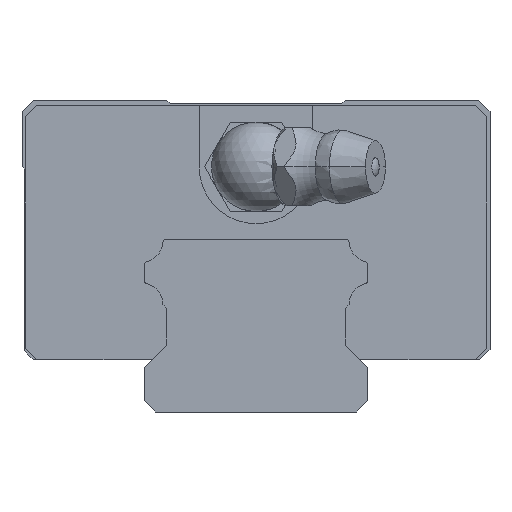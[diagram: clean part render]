
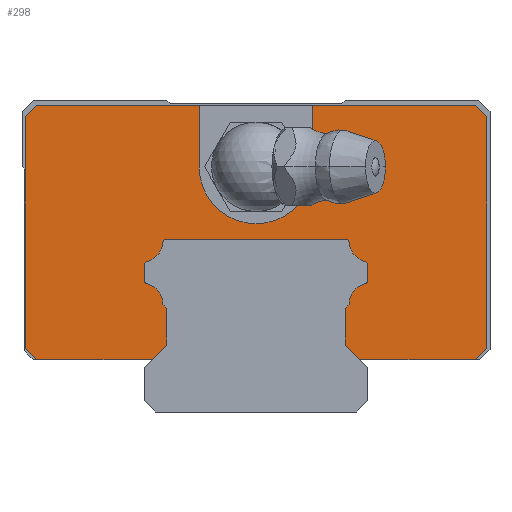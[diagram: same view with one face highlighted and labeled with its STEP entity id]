
A CAD part, front view. The second image highlights one B-rep face of the part: STEP entity #298.
In plain terms, the highlighted planar face has unit normal (0, -1, 0).
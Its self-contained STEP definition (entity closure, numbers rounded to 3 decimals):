
#298=ADVANCED_FACE('',(#639),#640,.T.);
#639=FACE_OUTER_BOUND('',#1142,.T.);
#640=PLANE('',#1143);
#1142=EDGE_LOOP('',(#2280,#2281,#2282,#2283,#2284,#2285,#2286,#2287,#2288,#2289,#2290,#2291,#2292,#2293,#2294,#2295,#2296,#2297,#2298,#2299,#2300,#2301,#2302,#2303,#2304,#2305,#2306,#2307,#2308,#2309,#2310,#2311,#2312));
#1143=AXIS2_PLACEMENT_3D('',#2313,#2314,#2315);
#2280=ORIENTED_EDGE('',*,*,#3279,.F.);
#2281=ORIENTED_EDGE('',*,*,#3240,.F.);
#2282=ORIENTED_EDGE('',*,*,#3334,.F.);
#2283=ORIENTED_EDGE('',*,*,#3335,.F.);
#2284=ORIENTED_EDGE('',*,*,#3309,.F.);
#2285=ORIENTED_EDGE('',*,*,#3181,.F.);
#2286=ORIENTED_EDGE('',*,*,#3237,.F.);
#2287=ORIENTED_EDGE('',*,*,#3321,.F.);
#2288=ORIENTED_EDGE('',*,*,#3324,.F.);
#2289=ORIENTED_EDGE('',*,*,#3336,.F.);
#2290=ORIENTED_EDGE('',*,*,#3276,.F.);
#2291=ORIENTED_EDGE('',*,*,#3288,.F.);
#2292=ORIENTED_EDGE('',*,*,#3337,.F.);
#2293=ORIENTED_EDGE('',*,*,#3312,.F.);
#2294=ORIENTED_EDGE('',*,*,#3224,.F.);
#2295=ORIENTED_EDGE('',*,*,#3338,.F.);
#2296=ORIENTED_EDGE('',*,*,#3185,.F.);
#2297=ORIENTED_EDGE('',*,*,#3339,.F.);
#2298=ORIENTED_EDGE('',*,*,#3235,.F.);
#2299=ORIENTED_EDGE('',*,*,#3248,.F.);
#2300=ORIENTED_EDGE('',*,*,#3328,.F.);
#2301=ORIENTED_EDGE('',*,*,#3340,.F.);
#2302=ORIENTED_EDGE('',*,*,#3304,.F.);
#2303=ORIENTED_EDGE('',*,*,#3168,.T.);
#2304=ORIENTED_EDGE('',*,*,#3341,.T.);
#2305=ORIENTED_EDGE('',*,*,#3075,.T.);
#2306=ORIENTED_EDGE('',*,*,#3291,.T.);
#2307=ORIENTED_EDGE('',*,*,#3303,.F.);
#2308=ORIENTED_EDGE('',*,*,#3342,.F.);
#2309=ORIENTED_EDGE('',*,*,#3343,.F.);
#2310=ORIENTED_EDGE('',*,*,#3298,.F.);
#2311=ORIENTED_EDGE('',*,*,#3344,.F.);
#2312=ORIENTED_EDGE('',*,*,#3345,.F.);
#2313=CARTESIAN_POINT('',(0.0,-10.1,22.0));
#2314=DIRECTION('',(0.0,-1.0,0.0));
#2315=DIRECTION('',(0.0,0.0,-1.0));
#3075=EDGE_CURVE('',#3664,#3668,#3670,.T.);
#3168=EDGE_CURVE('',#3840,#3838,#3841,.T.);
#3181=EDGE_CURVE('',#3860,#3862,#3863,.T.);
#3185=EDGE_CURVE('',#3868,#3870,#3871,.T.);
#3224=EDGE_CURVE('',#3936,#3938,#3939,.T.);
#3235=EDGE_CURVE('',#3955,#3945,#3957,.T.);
#3237=EDGE_CURVE('',#3959,#3860,#3961,.T.);
#3240=EDGE_CURVE('',#3964,#3966,#3967,.T.);
#3248=EDGE_CURVE('',#3976,#3955,#3978,.T.);
#3276=EDGE_CURVE('',#4025,#4027,#4028,.T.);
#3279=EDGE_CURVE('',#3966,#4032,#4033,.T.);
#3288=EDGE_CURVE('',#4044,#4025,#4046,.T.);
#3291=EDGE_CURVE('',#3668,#4048,#4050,.T.);
#3298=EDGE_CURVE('',#4057,#4055,#4059,.T.);
#3303=EDGE_CURVE('',#4065,#4048,#4067,.T.);
#3304=EDGE_CURVE('',#3840,#4063,#4068,.T.);
#3309=EDGE_CURVE('',#3862,#4073,#4074,.T.);
#3312=EDGE_CURVE('',#3938,#4078,#4079,.T.);
#3321=EDGE_CURVE('',#4091,#3959,#4093,.T.);
#3324=EDGE_CURVE('',#4096,#4091,#4098,.T.);
#3328=EDGE_CURVE('',#4101,#3976,#4103,.T.);
#3334=EDGE_CURVE('',#4110,#3964,#4111,.T.);
#3335=EDGE_CURVE('',#4073,#4110,#4112,.T.);
#3336=EDGE_CURVE('',#4027,#4096,#4113,.T.);
#3337=EDGE_CURVE('',#4078,#4044,#4114,.T.);
#3338=EDGE_CURVE('',#3870,#3936,#4115,.T.);
#3339=EDGE_CURVE('',#3945,#3868,#4116,.T.);
#3340=EDGE_CURVE('',#4063,#4101,#4117,.T.);
#3341=EDGE_CURVE('',#3838,#3664,#4118,.T.);
#3342=EDGE_CURVE('',#4119,#4065,#4120,.T.);
#3343=EDGE_CURVE('',#4055,#4119,#4121,.T.);
#3344=EDGE_CURVE('',#4122,#4057,#4123,.T.);
#3345=EDGE_CURVE('',#4032,#4122,#4124,.T.);
#3664=VERTEX_POINT('',#4730);
#3668=VERTEX_POINT('',#4735);
#3670=CIRCLE('',#4738,5.1);
#3838=VERTEX_POINT('',#4959);
#3840=VERTEX_POINT('',#4962);
#3841=LINE('',#4963,#4964);
#3860=VERTEX_POINT('',#4990);
#3862=VERTEX_POINT('',#4993);
#3863=CIRCLE('',#4994,0.3);
#3868=VERTEX_POINT('',#5000);
#3870=VERTEX_POINT('',#5003);
#3871=LINE('',#5004,#5005);
#3936=VERTEX_POINT('',#5099);
#3938=VERTEX_POINT('',#5102);
#3939=CIRCLE('',#5103,1.9);
#3945=VERTEX_POINT('',#5110);
#3955=VERTEX_POINT('',#5125);
#3957=LINE('',#5128,#5129);
#3959=VERTEX_POINT('',#5131);
#3961=CIRCLE('',#5134,1.9);
#3964=VERTEX_POINT('',#5137);
#3966=VERTEX_POINT('',#5140);
#3967=LINE('',#5141,#5142);
#3976=VERTEX_POINT('',#5153);
#3978=LINE('',#5156,#5157);
#4025=VERTEX_POINT('',#5230);
#4027=VERTEX_POINT('',#5233);
#4028=CIRCLE('',#5234,1.9);
#4032=VERTEX_POINT('',#5239);
#4033=LINE('',#5240,#5241);
#4044=VERTEX_POINT('',#5256);
#4046=CIRCLE('',#5259,0.3);
#4048=VERTEX_POINT('',#5261);
#4050=LINE('',#5264,#5265);
#4055=VERTEX_POINT('',#5273);
#4057=VERTEX_POINT('',#5276);
#4059=LINE('',#5279,#5280);
#4063=VERTEX_POINT('',#5286);
#4065=VERTEX_POINT('',#5289);
#4067=LINE('',#5292,#5293);
#4068=LINE('',#5294,#5295);
#4073=VERTEX_POINT('',#5302);
#4074=LINE('',#5303,#5304);
#4078=VERTEX_POINT('',#5310);
#4079=CIRCLE('',#5311,0.3);
#4091=VERTEX_POINT('',#5324);
#4093=CIRCLE('',#5327,0.3);
#4096=VERTEX_POINT('',#5330);
#4098=LINE('',#5333,#5334);
#4101=VERTEX_POINT('',#5339);
#4103=LINE('',#5342,#5343);
#4110=VERTEX_POINT('',#5353);
#4111=CIRCLE('',#5354,1.9);
#4112=CIRCLE('',#5355,0.3);
#4113=CIRCLE('',#5356,0.3);
#4114=LINE('',#5357,#5358);
#4115=LINE('',#5359,#5360);
#4116=LINE('',#5361,#5362);
#4117=LINE('',#5363,#5364);
#4118=CIRCLE('',#5365,5.1);
#4119=VERTEX_POINT('',#5366);
#4120=LINE('',#5367,#5368);
#4121=LINE('',#5369,#5370);
#4122=VERTEX_POINT('',#5371);
#4123=LINE('',#5372,#5373);
#4124=LINE('',#5374,#5375);
#4730=CARTESIAN_POINT('',(0.,-10.1,16.9));
#4735=CARTESIAN_POINT('',(-5.1,-10.1,22.0));
#4738=AXIS2_PLACEMENT_3D('',#5848,#5849,#5850);
#4959=CARTESIAN_POINT('',(5.1,-10.1,22.0));
#4962=CARTESIAN_POINT('',(5.1,-10.1,27.5));
#4963=CARTESIAN_POINT('',(5.1,-10.1,27.5));
#4964=VECTOR('',#6019,1000.0);
#4990=CARTESIAN_POINT('',(-9.775,-10.1,13.51));
#4993=CARTESIAN_POINT('',(-10.0,-10.1,13.219));
#4994=AXIS2_PLACEMENT_3D('',#6040,#6041,#6042);
#5000=CARTESIAN_POINT('',(8.0,-10.1,6.));
#5003=CARTESIAN_POINT('',(8.0,-10.1,9.3));
#5004=CARTESIAN_POINT('',(8.0,-10.1,22.0));
#5005=VECTOR('',#6048,1000.0);
#5099=CARTESIAN_POINT('',(8.349,-10.1,9.649));
#5102=CARTESIAN_POINT('',(9.775,-10.1,11.49));
#5103=AXIS2_PLACEMENT_3D('',#6103,#6104,#6105);
#5110=CARTESIAN_POINT('',(9.3,-10.1,4.7));
#5125=CARTESIAN_POINT('',(19.7,-10.1,4.7));
#5128=CARTESIAN_POINT('',(19.7,-10.1,4.7));
#5129=VECTOR('',#6122,1000.0);
#5131=CARTESIAN_POINT('',(-8.354,-10.1,15.22));
#5134=AXIS2_PLACEMENT_3D('',#6124,#6125,#6126);
#5137=CARTESIAN_POINT('',(-8.349,-10.1,9.649));
#5140=CARTESIAN_POINT('',(-8.0,-10.1,9.3));
#5141=CARTESIAN_POINT('',(-10.35,-10.1,11.65));
#5142=VECTOR('',#6131,1000.0);
#5153=CARTESIAN_POINT('',(20.7,-10.1,5.7));
#5156=CARTESIAN_POINT('',(20.7,-10.1,5.7));
#5157=VECTOR('',#6147,1000.0);
#5230=CARTESIAN_POINT('',(9.775,-10.1,13.51));
#5233=CARTESIAN_POINT('',(8.354,-10.1,15.22));
#5234=AXIS2_PLACEMENT_3D('',#6175,#6176,#6177);
#5239=CARTESIAN_POINT('',(-8.0,-10.1,6.));
#5240=CARTESIAN_POINT('',(-8.0,-10.1,22.0));
#5241=VECTOR('',#6182,1000.0);
#5256=CARTESIAN_POINT('',(10.0,-10.1,13.219));
#5259=AXIS2_PLACEMENT_3D('',#6197,#6198,#6199);
#5261=CARTESIAN_POINT('',(-5.1,-10.1,27.5));
#5264=CARTESIAN_POINT('',(-5.1,-10.1,22.0));
#5265=VECTOR('',#6204,1000.0);
#5273=CARTESIAN_POINT('',(-20.7,-10.1,5.7));
#5276=CARTESIAN_POINT('',(-19.7,-10.1,4.7));
#5279=CARTESIAN_POINT('',(-19.7,-10.1,4.7));
#5280=VECTOR('',#6213,1000.0);
#5286=CARTESIAN_POINT('',(19.7,-10.1,27.5));
#5289=CARTESIAN_POINT('',(-19.7,-10.1,27.5));
#5292=CARTESIAN_POINT('',(-19.7,-10.1,27.5));
#5293=VECTOR('',#6218,1000.0);
#5294=CARTESIAN_POINT('',(-19.7,-10.1,27.5));
#5295=VECTOR('',#6219,1000.0);
#5302=CARTESIAN_POINT('',(-10.0,-10.1,11.781));
#5303=CARTESIAN_POINT('',(-10.0,-10.1,22.0));
#5304=VECTOR('',#6228,1000.0);
#5310=CARTESIAN_POINT('',(10.0,-10.1,11.781));
#5311=AXIS2_PLACEMENT_3D('',#6231,#6232,#6233);
#5324=CARTESIAN_POINT('',(-8.055,-10.1,15.5));
#5327=AXIS2_PLACEMENT_3D('',#6254,#6255,#6256);
#5330=CARTESIAN_POINT('',(8.055,-10.1,15.5));
#5333=CARTESIAN_POINT('',(0.0,-10.1,15.5));
#5334=VECTOR('',#6261,1000.0);
#5339=CARTESIAN_POINT('',(20.7,-10.1,26.5));
#5342=CARTESIAN_POINT('',(20.7,-10.1,26.5));
#5343=VECTOR('',#6265,1000.0);
#5353=CARTESIAN_POINT('',(-9.775,-10.1,11.49));
#5354=AXIS2_PLACEMENT_3D('',#6275,#6276,#6277);
#5355=AXIS2_PLACEMENT_3D('',#6278,#6279,#6280);
#5356=AXIS2_PLACEMENT_3D('',#6281,#6282,#6283);
#5357=CARTESIAN_POINT('',(10.0,-10.1,22.0));
#5358=VECTOR('',#6284,1000.0);
#5359=CARTESIAN_POINT('',(10.35,-10.1,11.65));
#5360=VECTOR('',#6285,1000.0);
#5361=CARTESIAN_POINT('',(-4.,-10.1,18.));
#5362=VECTOR('',#6286,1000.0);
#5363=CARTESIAN_POINT('',(19.7,-10.1,27.5));
#5364=VECTOR('',#6287,1000.0);
#5365=AXIS2_PLACEMENT_3D('',#6288,#6289,#6290);
#5366=CARTESIAN_POINT('',(-20.7,-10.1,26.5));
#5367=CARTESIAN_POINT('',(-20.7,-10.1,26.5));
#5368=VECTOR('',#6291,1000.0);
#5369=CARTESIAN_POINT('',(-20.7,-10.1,5.7));
#5370=VECTOR('',#6292,1000.0);
#5371=CARTESIAN_POINT('',(-9.3,-10.1,4.7));
#5372=CARTESIAN_POINT('',(19.7,-10.1,4.7));
#5373=VECTOR('',#6293,1000.0);
#5374=CARTESIAN_POINT('',(4.,-10.1,18.));
#5375=VECTOR('',#6294,1000.0);
#5848=CARTESIAN_POINT('',(0.0,-10.1,22.0));
#5849=DIRECTION('',(0.0,1.0,0.0));
#5850=DIRECTION('',(-1.0,0.0,0.0));
#6019=DIRECTION('',(0.0,0.0,-1.0));
#6040=CARTESIAN_POINT('',(-9.7,-10.1,13.219));
#6041=DIRECTION('',(0.0,-1.0,0.0));
#6042=DIRECTION('',(0.0,0.0,-1.0));
#6048=DIRECTION('',(0.0,0.0,1.0));
#6103=CARTESIAN_POINT('',(10.249,-10.1,9.651));
#6104=DIRECTION('',(0.0,1.0,0.0));
#6105=DIRECTION('',(0.0,0.0,-1.0));
#6122=DIRECTION('',(-1.0,0.0,0.0));
#6124=CARTESIAN_POINT('',(-10.249,-10.1,15.349));
#6125=DIRECTION('',(0.0,1.0,0.0));
#6126=DIRECTION('',(0.0,0.0,-1.0));
#6131=DIRECTION('',(0.707,0.0,-0.707));
#6147=DIRECTION('',(-0.707,0.0,-0.707));
#6175=CARTESIAN_POINT('',(10.249,-10.1,15.349));
#6176=DIRECTION('',(0.0,1.0,0.0));
#6177=DIRECTION('',(0.0,0.0,-1.0));
#6182=DIRECTION('',(0.0,0.0,-1.0));
#6197=CARTESIAN_POINT('',(9.7,-10.1,13.219));
#6198=DIRECTION('',(0.0,-1.0,0.0));
#6199=DIRECTION('',(0.0,0.0,-1.0));
#6204=DIRECTION('',(0.0,0.0,1.0));
#6213=DIRECTION('',(-0.707,0.0,0.707));
#6218=DIRECTION('',(1.0,0.0,0.0));
#6219=DIRECTION('',(1.0,0.0,0.0));
#6228=DIRECTION('',(0.0,0.0,-1.0));
#6231=CARTESIAN_POINT('',(9.7,-10.1,11.781));
#6232=DIRECTION('',(0.0,-1.0,0.0));
#6233=DIRECTION('',(0.0,0.0,-1.0));
#6254=CARTESIAN_POINT('',(-8.055,-10.1,15.2));
#6255=DIRECTION('',(0.0,-1.0,0.0));
#6256=DIRECTION('',(0.0,0.0,-1.0));
#6261=DIRECTION('',(-1.0,0.0,0.0));
#6265=DIRECTION('',(0.0,0.0,-1.0));
#6275=CARTESIAN_POINT('',(-10.249,-10.1,9.651));
#6276=DIRECTION('',(0.0,1.0,0.0));
#6277=DIRECTION('',(0.0,0.0,-1.0));
#6278=CARTESIAN_POINT('',(-9.7,-10.1,11.781));
#6279=DIRECTION('',(0.0,-1.0,0.0));
#6280=DIRECTION('',(0.0,0.0,-1.0));
#6281=CARTESIAN_POINT('',(8.055,-10.1,15.2));
#6282=DIRECTION('',(0.0,-1.0,0.0));
#6283=DIRECTION('',(0.0,0.0,-1.0));
#6284=DIRECTION('',(0.0,0.0,1.0));
#6285=DIRECTION('',(0.707,0.0,0.707));
#6286=DIRECTION('',(-0.707,0.0,0.707));
#6287=DIRECTION('',(0.707,0.0,-0.707));
#6288=CARTESIAN_POINT('',(0.0,-10.1,22.0));
#6289=DIRECTION('',(0.0,1.0,0.0));
#6290=DIRECTION('',(-1.0,0.0,0.0));
#6291=DIRECTION('',(0.707,0.0,0.707));
#6292=DIRECTION('',(0.0,0.0,1.0));
#6293=DIRECTION('',(-1.0,0.0,0.0));
#6294=DIRECTION('',(-0.707,0.0,-0.707));
